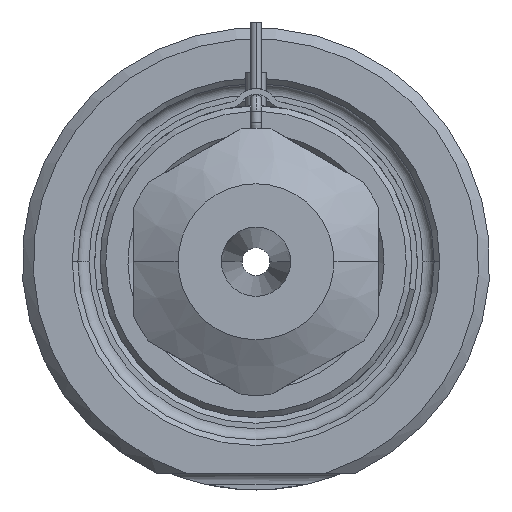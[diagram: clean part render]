
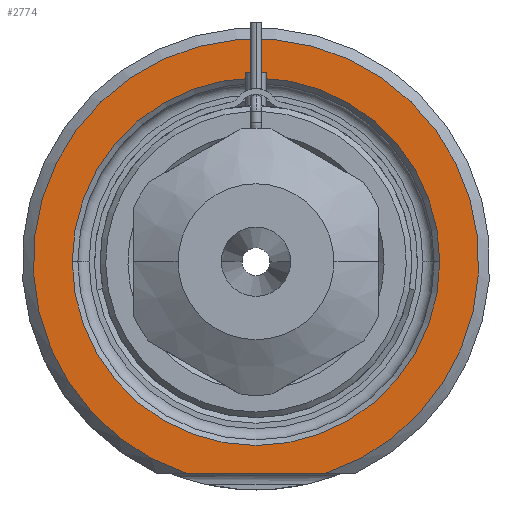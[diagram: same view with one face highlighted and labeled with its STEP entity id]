
A CAD part, front view. The second image highlights one B-rep face of the part: STEP entity #2774.
In plain terms, the highlighted planar face has unit normal (0, -1, 0).
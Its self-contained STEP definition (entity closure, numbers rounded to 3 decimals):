
#1=DIRECTION('',(1.,0.,0.));
#2=VECTOR('',#1,12.49);
#3=CARTESIAN_POINT('',(-6.245,0.,-19.));
#4=LINE('',#3,#2);
#5=CARTESIAN_POINT('',(0.,0.,0.));
#6=DIRECTION('',(0.,1.,0.));
#7=DIRECTION('',(-1.,0.,0.));
#8=AXIS2_PLACEMENT_3D('',#5,#6,#7);
#10=CARTESIAN_POINT('',(0.,0.,0.));
#11=DIRECTION('',(0.,1.,0.));
#12=DIRECTION('',(1.,0.,0.));
#13=AXIS2_PLACEMENT_3D('',#10,#11,#12);
#119=CARTESIAN_POINT('',(0.,0.,0.));
#120=DIRECTION('',(0.,-1.,0.));
#121=DIRECTION('',(0.312,0.,-0.95));
#122=AXIS2_PLACEMENT_3D('',#119,#120,#121);
#2315=CARTESIAN_POINT('',(-16.5,0.,0.));
#2316=CARTESIAN_POINT('',(16.5,0.,0.));
#2317=VERTEX_POINT('',#2315);
#2318=VERTEX_POINT('',#2316);
#2355=CARTESIAN_POINT('',(-6.245,0.,-19.));
#2356=CARTESIAN_POINT('',(6.245,0.,-19.));
#2357=VERTEX_POINT('',#2355);
#2358=VERTEX_POINT('',#2356);
#2757=CARTESIAN_POINT('',(0.,0.,0.));
#2758=DIRECTION('',(0.,-1.,0.));
#2759=DIRECTION('',(1.,0.,0.));
#2760=AXIS2_PLACEMENT_3D('',#2757,#2758,#2759);
#2761=PLANE('',#2760);
#2763=ORIENTED_EDGE('',*,*,#2762,.F.);
#2765=ORIENTED_EDGE('',*,*,#2764,.F.);
#2766=EDGE_LOOP('',(#2763,#2765));
#2767=FACE_OUTER_BOUND('',#2766,.F.);
#2769=ORIENTED_EDGE('',*,*,#2768,.F.);
#2771=ORIENTED_EDGE('',*,*,#2770,.F.);
#2772=EDGE_LOOP('',(#2769,#2771));
#2773=FACE_BOUND('',#2772,.F.);
#2774=ADVANCED_FACE('',(#2767,#2773),#2761,.T.);
#9=CIRCLE('',#8,16.5);
#14=CIRCLE('',#13,16.5);
#123=CIRCLE('',#122,20.);
#2762=EDGE_CURVE('',#2357,#2358,#4,.T.);
#2764=EDGE_CURVE('',#2358,#2357,#123,.T.);
#2768=EDGE_CURVE('',#2317,#2318,#9,.T.);
#2770=EDGE_CURVE('',#2318,#2317,#14,.T.);
